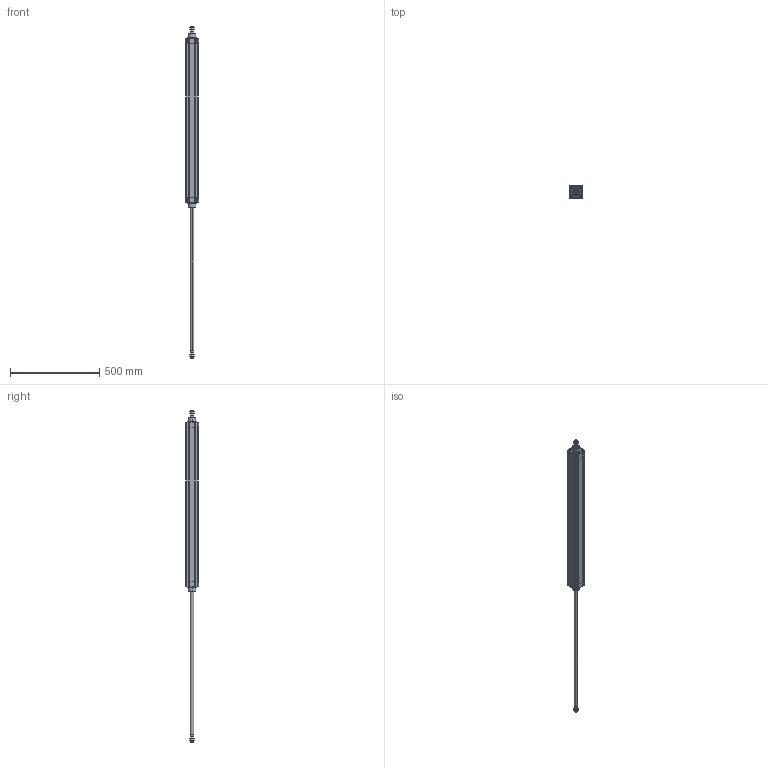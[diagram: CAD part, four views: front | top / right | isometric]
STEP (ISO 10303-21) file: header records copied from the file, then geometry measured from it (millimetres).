
FILE_DESCRIPTION (( 'STEP AP214' ), '1' );
FILE_NAME ('N11M40630800.STEP', '2021-09-28T10:09:10', ( '' ), ( '' ), 'SwSTEP 2.0', 'SolidWorks 2016', '' );
FILE_SCHEMA (( 'AUTOMOTIVE_DESIGN' ));
Length unit declared in the file: millimetre
Products named in the file (7): Pistone Ø63 ISO 15552; 000.513.7_000.513.0800; 21.D03.0000_21.D03.0800; TA Ø63 ISO 15552 WEB; 21.D01.0000_21.D01.0800; 21.752.0; N11M40630800
Assembly tree (8 placements, depth 2):
  N11M40630800
    TA Ø63 ISO 15552 WEB  x2
    21.D01.0000_21.D01.0800
    21.D03.0000_21.D03.0800
    Pistone Ø63 ISO 15552
    21.752.0  x2
    000.513.7_000.513.0800
Bounding box: 73.97 x 73.98 x 1859 mm (x, y, z)
Volume: 2148715.6 mm3; surface area: 822094.5 mm2
Topology: 20 solids, 20 shells, 2132 faces, 5374 edges, 3281 vertices
Faces by surface type: plane 720, cylinder 712, bspline 252, cone 248, torus 162, sphere 38
Entity records: 48770 total; most frequent: CARTESIAN_POINT 10729, ORIENTED_EDGE 5928, DIRECTION 5714, EDGE_CURVE 2964, AXIS2_PLACEMENT_3D 2140, VERTEX_POINT 1841, VECTOR 1434, LINE 1434
